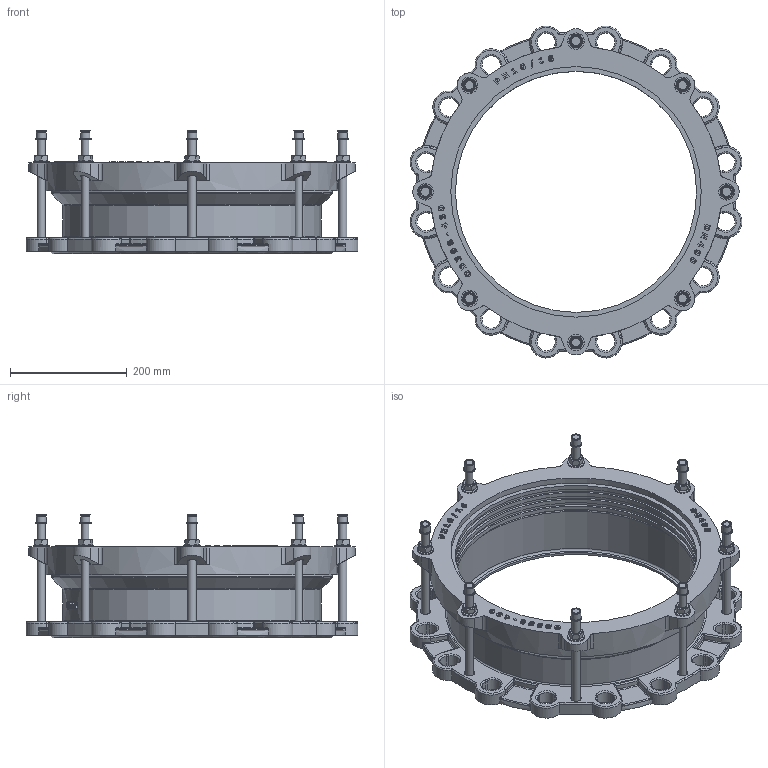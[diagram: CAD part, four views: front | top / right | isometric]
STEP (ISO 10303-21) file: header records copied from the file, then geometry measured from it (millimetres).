
FILE_DESCRIPTION(('STEP AP203'), '1');
FILE_NAME('Ôëàíöåâûé àäàïòåð', '', ('UNSPECIFIED'), ('UNSPECIFIED'), 'C3D Converter', 'C3D Toolkit', '');
FILE_SCHEMA(('CONFIG_CONTROL_DESIGN'));
Length unit declared in the file: millimetre
Assembly tree (35 placements, depth 2):
  (unnamed)
    (unnamed)
    (unnamed)  x8
    (unnamed)  x8
    (unnamed)  x8
    (unnamed)  x8
    (unnamed)
    (unnamed)
Bounding box: 569.89 x 569.89 x 211.4 mm (x, y, z)
Volume: 6376791.7 mm3; surface area: 1240485.8 mm2
Topology: 35 solids, 35 shells, 1621 faces, 4071 edges, 2480 vertices
Faces by surface type: plane 499, cylinder 419, extrusion 384, torus 147, bspline 64, cone 60, sphere 48
Full cylindrical faces by diameter (mm): 13.478 x1, 14 x24, 15 x8, 16 x16, 16.8 x8, 19.6 x8, 28 x8, 414 x5, 422 x3, 430 x2, 437 x1, 444 x2, 482.5 x1, 486 x2, 500 x1
Entity records: 59428 total; most frequent: CARTESIAN_POINT 23185, ORIENTED_EDGE 6674, DIRECTION 5529, EDGE_CURVE 3337, VERTEX_POINT 2116, AXIS2_PLACEMENT_3D 1876, VECTOR 1777, EDGE_LOOP 1535
